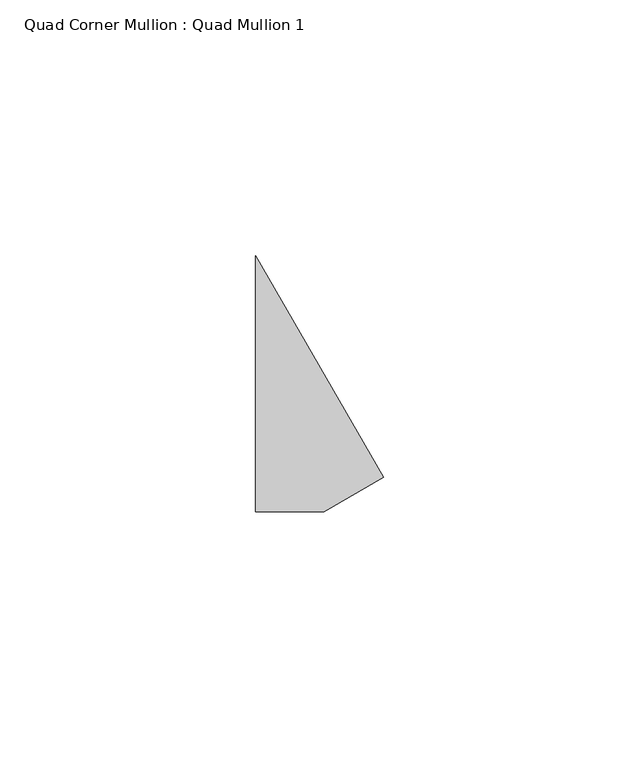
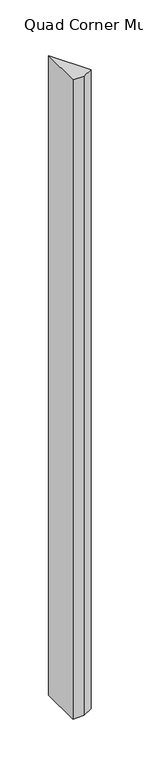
"""IFC4 building model written with IfcOpenShell, lengths in millimetres: member geometry, Quad Corner Mullion : Quad Mullion 1."""

import ifcopenshell
import ifcopenshell.guid

model = None  # the IFC model being written
_history = None  # IfcOwnerHistory: only IFC2X3 demands one
_inside = {}  # id of a spatial element -> (the spatial element, [elements in it])
_under = {}  # id of a project, library or spatial element -> (it, [spatial elements below it])
_declared = {}  # id of a project -> (the project, [libraries it declares])
_typed = {}  # id of a type object -> (the type object, [elements of that type])
_made_of = {}  # id of a material, layer set ... -> (it, [elements and type objects made of it])


def new_model(schema):
    """Start an empty IFC model of exactly this schema.

    Asked for "IFC4X3", IfcOpenShell would pick the latest addendum, in which some entities
    have other attributes; the version numbers below select the first issue.
    IFC2X3 requires an IfcOwnerHistory on every rooted entity: one is made here for all.
    """
    global model, _history
    if schema == "IFC4X3":
        model = ifcopenshell.file(schema_version=(4, 3, 0, 0))
    else:
        model = ifcopenshell.file(schema=schema)
    _inside.clear()
    _under.clear()
    _declared.clear()
    _typed.clear()
    _made_of.clear()
    _history = None
    if model.schema == "IFC2X3":
        org = make("IfcOrganization", Name="unknown")
        user = make(
            "IfcPersonAndOrganization",
            ThePerson=make("IfcPerson", FamilyName="unknown"),
            TheOrganization=org,
        )
        app = make(
            "IfcApplication",
            ApplicationDeveloper=org,
            Version="unknown",
            ApplicationFullName="unknown",
            ApplicationIdentifier="unknown",
        )
        _history = make(
            "IfcOwnerHistory",
            OwningUser=user,
            OwningApplication=app,
            ChangeAction="ADDED",
            CreationDate=0,
        )
    return model


def make(cls, **values):
    """One entity of the class cls with the attributes given. An attribute that is None is left unset."""
    return model.create_entity(
        cls, **{name: value for name, value in values.items() if value is not None}
    )


def rooted(cls, **values):
    """An entity with a GlobalId (a new one), such as an element, a storey or a relation."""
    return make(cls, GlobalId=ifcopenshell.guid.new(), OwnerHistory=_history, **values)


def si_unit(unit_type, name, prefix=None):
    """IfcSIUnit, for example si_unit("LENGTHUNIT", "METRE", prefix="MILLI")."""
    return make("IfcSIUnit", UnitType=unit_type, Prefix=prefix, Name=name)


def assignment(units):
    """IfcUnitAssignment: the units of a project."""
    return None if units is None else make("IfcUnitAssignment", Units=units)


def point(xyz):
    """IfcCartesianPoint."""
    return None if xyz is None else make("IfcCartesianPoint", Coordinates=xyz)


def direction(xyz):
    """IfcDirection."""
    return None if xyz is None else make("IfcDirection", DirectionRatios=xyz)


def frame(location, z_axis=None, x_axis=None):
    """IfcAxis2Placement3D, a coordinate frame: its origin and axes. An axis left out is left unset."""
    return make(
        "IfcAxis2Placement3D",
        Location=point(location),
        Axis=direction(z_axis),
        RefDirection=direction(x_axis),
    )


def origin():
    """The frame at (0, 0, 0) with its axes left unset."""
    return frame((0.0, 0.0, 0.0))


def place(relative_to, where):
    """IfcLocalPlacement: puts the frame where relative to a parent placement (None: the world)."""
    return make(
        "IfcLocalPlacement", PlacementRelTo=relative_to, RelativePlacement=where
    )


def context(
    kind, dimensions, precision=None, world=None, true_north=None, identifier=None
):
    """IfcGeometricRepresentationContext, for example the 3D "Model" context."""
    return make(
        "IfcGeometricRepresentationContext",
        ContextIdentifier=identifier,
        ContextType=kind,
        CoordinateSpaceDimension=dimensions,
        Precision=precision,
        WorldCoordinateSystem=world,
        TrueNorth=true_north,
    )


def project(units=None, contexts=None):
    """IfcProject with its units and contexts."""
    return rooted(
        "IfcProject",
        Name="project",
        RepresentationContexts=contexts,
        UnitsInContext=assignment(units),
    )


def spatial(cls, under=None, at=None, **own):
    """A site, building, storey or space (cls), placed at a placement, below another one or the project."""
    s = rooted(cls, ObjectPlacement=at, **own)
    if under is not None:
        _under.setdefault(under.id(), (under, []))[1].append(s)
    return s


def polyline(points):
    """IfcPolyline through the points."""
    return make("IfcPolyline", Points=[point(p) for p in points])


def outline(outer, holes=None, kind="AREA"):
    """IfcArbitraryClosedProfileDef: a profile drawn as a closed curve; with holes, ...WithVoids."""
    if holes is None:
        return make("IfcArbitraryClosedProfileDef", ProfileType=kind, OuterCurve=outer)
    return make(
        "IfcArbitraryProfileDefWithVoids",
        ProfileType=kind,
        OuterCurve=outer,
        InnerCurves=holes,
    )


def extrude(swept, where, along, depth):
    """IfcExtrudedAreaSolid: the profile swept, set in the frame where, extruded along a direction by depth."""
    return make(
        "IfcExtrudedAreaSolid",
        SweptArea=swept,
        Position=where,
        ExtrudedDirection=direction(along),
        Depth=depth,
    )


def shape(context_of_items, identifier, shape_type, items):
    """IfcShapeRepresentation: the items that make up one representation, for example the "Body"."""
    return make(
        "IfcShapeRepresentation",
        ContextOfItems=context_of_items,
        RepresentationIdentifier=identifier,
        RepresentationType=shape_type,
        Items=items,
    )


def source(mapping_origin, context_of_items, identifier, shape_type, items):
    """IfcRepresentationMap: a shape defined once, which mapped items show again and again."""
    return make(
        "IfcRepresentationMap",
        MappingOrigin=mapping_origin,
        MappedRepresentation=shape(context_of_items, identifier, shape_type, items),
    )


def transform(
    local_origin,
    x_axis=None,
    y_axis=None,
    z_axis=None,
    scale=None,
    scale2=None,
    scale3=None,
    uniform=True,
):
    """IfcCartesianTransformationOperator3D, or its non-uniform kind. x_axis, y_axis, z_axis: its Axis1, 2, 3."""
    if uniform:
        return make(
            "IfcCartesianTransformationOperator3D",
            Axis1=direction(x_axis),
            Axis2=direction(y_axis),
            LocalOrigin=point(local_origin),
            Scale=scale,
            Axis3=direction(z_axis),
        )
    return make(
        "IfcCartesianTransformationOperator3DnonUniform",
        Axis1=direction(x_axis),
        Axis2=direction(y_axis),
        LocalOrigin=point(local_origin),
        Scale=scale,
        Axis3=direction(z_axis),
        Scale2=scale2,
        Scale3=scale3,
    )


def mapped(mapping_source, mapping_target):
    """IfcMappedItem: shows the shape of a source again, moved by a transform."""
    return make(
        "IfcMappedItem", MappingSource=mapping_source, MappingTarget=mapping_target
    )


def made_of(thing, what):
    """Note that an element or type object is made of a material, layer set ...; save() writes the relation."""
    if what is not None:
        _made_of.setdefault(what.id(), (what, []))[1].append(thing)
    return thing


def element(
    cls,
    number,
    at=None,
    inside=None,
    cuts=None,
    type_object=None,
    material=None,
    context=None,
    identifier="Body",
    shape_type=None,
    held_by="IfcProductDefinitionShape",
    body=None,
    shapes=None,
    **own,
):
    """One element of the class cls, such as IfcWall. Its Tag is "e" and its number.

    at: its placement. inside: the storey or other place that contains it. cuts: it is an
    opening in that element (IfcRelVoidsElement). A single representation is given by context,
    identifier, shape_type and body (its items); several are given by shapes. held_by: the class
    of the entity that holds the representations. save() writes the other relations.
    """
    e = rooted(cls, Tag="e%d" % number, ObjectPlacement=at, **own)
    if body is not None:
        shapes = [shape(context, identifier, shape_type, body)]
    if shapes is not None:
        e.Representation = make(held_by, Representations=shapes)
    if inside is not None:
        _inside.setdefault(inside.id(), (inside, []))[1].append(e)
    if cuts is not None:
        rooted(
            "IfcRelVoidsElement", RelatingBuildingElement=cuts, RelatedOpeningElement=e
        )
    if type_object is not None:
        _typed.setdefault(type_object.id(), (type_object, []))[1].append(e)
    return made_of(e, material)


def aggregate(whole, parts):
    """IfcRelAggregates: a whole, such as a stair, and the parts it consists of."""
    return rooted("IfcRelAggregates", RelatingObject=whole, RelatedObjects=parts)


def save(model, path):
    """Write the relations noted so far, then the file.

    IfcRelAggregates (storeys below a building ...), IfcRelContainedInSpatialStructure (elements
    in a storey), IfcRelDefinesByType, IfcRelAssociatesMaterial and IfcRelDeclares: one each for
    every whole, place, type object, material and project.
    """
    for whole, parts in _under.values():
        aggregate(whole, parts)
    for where, things in _inside.values():
        rooted(
            "IfcRelContainedInSpatialStructure",
            RelatedElements=things,
            RelatingStructure=where,
        )
    for kind, things in _typed.values():
        rooted("IfcRelDefinesByType", RelatedObjects=things, RelatingType=kind)
    for what, things in _made_of.values():
        rooted("IfcRelAssociatesMaterial", RelatedObjects=things, RelatingMaterial=what)
    for by, libraries in _declared.values():
        rooted("IfcRelDeclares", RelatingContext=by, RelatedDefinitions=libraries)
    model.write(path)


def quad_corner_mullion_quad_mullion_1_1dbbc365(model_context):
    return source(origin(), model_context, "Body", "SweptSolid", [
        extrude(outline(polyline([(18.3012702, -18.3012702), (6.6987298, -25.0), (-6.6987298, -25.0), (-6.6987298, 25.0), (18.3012702, -18.3012702)])), frame((0.0, 0.0, -800.0), z_axis=(0.0, 0.0, 1.0), x_axis=(1.0, 0.0, 0.0)), (0.0, 0.0, 1.0), 800.0),
    ])


if __name__ == "__main__":
    model = new_model("IFC4")
    model_context = context("Model", 3, world=origin())
    ifc_project = project(units=[si_unit("LENGTHUNIT", "METRE", prefix="MILLI")], contexts=[model_context])
    site = spatial("IfcSite", under=ifc_project)
    building = spatial("IfcBuilding", under=site)
    placement = place(None, origin())
    quad_corner_mullion_quad_mullion_1_shape = quad_corner_mullion_quad_mullion_1_1dbbc365(model_context)
    element("IfcMember", 1, ObjectType="Quad Corner Mullion : Quad Mullion 1", at=placement, inside=building, context=model_context, shape_type="MappedRepresentation", body=[
        mapped(quad_corner_mullion_quad_mullion_1_shape, transform((0.0, 0.0, 0.0), x_axis=(1.0, 0.0, 0.0), y_axis=(0.0, 1.0, 0.0), z_axis=(0.0, 0.0, 1.0))),
    ])
    save(model, "model.ifc")
